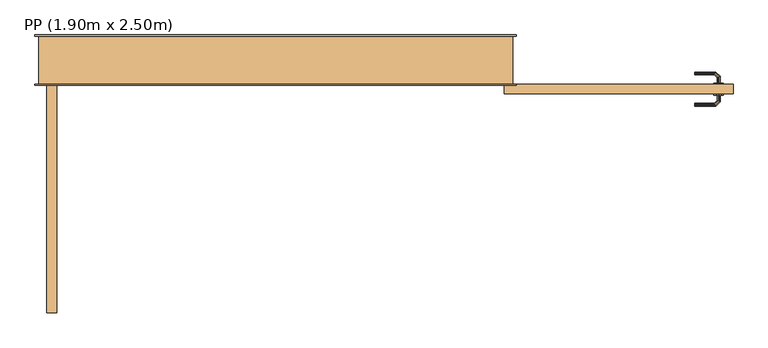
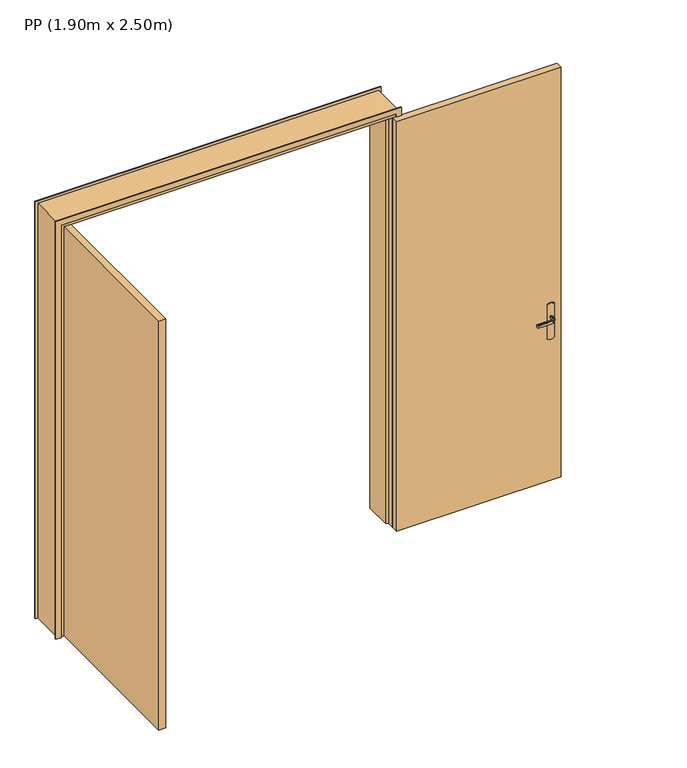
"""IFC4 building model written with IfcOpenShell, lengths in millimetres: door geometry, PP (1.90m x 2.50m)."""

from ifc_helpers import new_model, si_unit, frame, origin, origin_with_axes, place, context, project, spatial, polyline, outline, extrude, faceted_brep, source, transform, mapped, element, save


def pp_1_90m_x_2_50m_fd2a65c8(model_context):
    return source(origin(), model_context, "Body", "SolidModel", [
        extrude(outline(polyline([(2885.0, -40.0), (1935.0, -40.0), (1935.0, 0.0), (2885.0, 0.0), (2885.0, -40.0)])), origin_with_axes(), (0.0, 0.0, 1.0), 2500.0),
        extrude(outline(polyline([(1083.9960169, 2814.6472382), (1080.0, 2805.0), (870.0, 2805.0), (866.0039831, 2814.6472382), (864.6410162, 2825.0), (866.0039831, 2835.3527618), (870.0, 2845.0), (1080.0, 2845.0), (1083.9960169, 2835.3527618), (1085.3589838, 2825.0), (1083.9960169, 2814.6472382)])), frame((0.0, 0.0, 0.0), z_axis=(0.0, 1.0, 0.0), x_axis=(0.0, 0.0, 1.0)), (0.0, 0.0, 1.0), 5.0),
        extrude(outline(polyline([(1083.9960169, 2814.6472382), (1080.0, 2805.0), (870.0, 2805.0), (866.0039831, 2814.6472382), (864.6410162, 2825.0), (866.0039831, 2835.3527618), (870.0, 2845.0), (1080.0, 2845.0), (1083.9960169, 2835.3527618), (1085.3589838, 2825.0), (1083.9960169, 2814.6472382)])), frame((0.0, -45.0, 0.0), z_axis=(0.0, 1.0, 0.0), x_axis=(0.0, 0.0, 1.0)), (0.0, 0.0, 1.0), 5.0),
        extrude(outline(polyline([(0.0, -15.0), (0.0, 15.0), (2520.0, 15.0), (2520.0, 1955.0), (0.0, 1955.0), (0.0, 1985.0), (2550.0, 1985.0), (2550.0, -15.0), (0.0, -15.0)])), frame((0.0, -5.0, 0.0), z_axis=(0.0, 1.0, 0.0), x_axis=(0.0, 0.0, 1.0)), (0.0, 0.0, 1.0), 5.0),
        faceted_brep([(2827.0252987, -45.0, 1007.7804408), (2831.0, -45.0, 1007.0), (2831.0, -45.0, 993.0), (2827.0252987, -45.0, 992.2195592), (2822.9747013, -45.0, 992.2195592), (2819.0, -45.0, 993.0), (2819.0, -45.0, 1007.0), (2822.9747013, -45.0, 1007.7804408), (2819.0, -67.4852045, 993.0), (2819.0, -67.4852045, 1007.0), (2822.9747013, -69.1315797, 1007.7804408), (2809.1610938, -82.9451872, 1007.7804408), (2810.8389062, -86.9957845, 1007.7804408), (2827.0252987, -70.8093921, 1007.7804408), (2831.0, -72.4557673, 1007.0), (2831.0, -72.4557673, 993.0), (2827.0252987, -70.8093921, 992.2195592), (2810.8389062, -86.9957845, 992.2195592), (2809.1610938, -82.9451872, 992.2195592), (2822.9747013, -69.1315797, 992.2195592), (2807.5147186, -78.9704859, 993.0), (2807.5147186, -78.9704859, 1007.0), (2812.4852814, -90.9704859, 1007.0), (2812.4852814, -90.9704859, 993.0), (2724.9542163, -78.9704859, 993.0), (2724.9542163, -82.9451872, 992.2195592), (2724.9542163, -86.9957845, 992.2195592), (2724.9542163, -90.9704859, 993.0), (2724.9542163, -90.9704859, 1007.0), (2724.9542163, -86.9957845, 1007.7804408), (2724.9542163, -82.9451872, 1007.7804408), (2724.9542163, -78.9704859, 1007.0), (2766.2344794, -78.9704859, 993.0), (2766.2344675, -78.9704859, 1007.0), (2767.0576551, -84.9704859, 1007.8786868), (2772.5547942, -90.9704859, 1007.0), (2772.5547957, -90.9704859, 993.0), (2767.0576549, -84.9704858, 992.1213132)], [[[0, 1, 2, 3, 4, 5, 6, 7]], [[6, 5, 8, 9]], [[9, 10, 7, 6]], [[10, 11, 12, 13, 0, 7]], [[13, 14, 1, 0]], [[2, 1, 14, 15]], [[15, 16, 3, 2]], [[16, 17, 18, 19, 4, 3]], [[19, 8, 5, 4]], [[9, 8, 20, 21]], [[21, 11, 10, 9]], [[12, 22, 14, 13]], [[15, 14, 22, 23]], [[23, 17, 16, 15]], [[18, 20, 8, 19]], [[24, 25, 26, 27, 28, 29, 30, 31]], [[21, 20, 32, 24, 31, 33]], [[33, 30, 34]], [[35, 34, 29]], [[21, 33, 11]], [[33, 31, 30]], [[28, 35, 29]], [[22, 12, 35]], [[35, 12, 34]], [[12, 11, 34]], [[11, 33, 34]], [[29, 34, 30]], [[22, 35, 28, 27, 36, 23]], [[36, 26, 37]], [[27, 26, 36]], [[17, 23, 36]], [[37, 32, 18]], [[20, 18, 32]], [[32, 25, 24]], [[26, 25, 37]], [[25, 32, 37]], [[17, 36, 37]], [[17, 37, 18]]]),
        extrude(outline(polyline([(75.0, -950.0), (35.0, -950.0), (35.0, 0.0), (75.0, 0.0), (75.0, -950.0)])), origin_with_axes(), (0.0, 0.0, 1.0), 2500.0),
        faceted_brep([(2827.0252987, 5.0, 1007.7804408), (2822.9747013, 5.0, 1007.7804408), (2819.0, 5.0, 1007.0), (2819.0, 5.0, 993.0), (2822.9747013, 5.0, 992.2195592), (2827.0252987, 5.0, 992.2195592), (2831.0, 5.0, 993.0), (2831.0, 5.0, 1007.0), (2831.0, 32.6509507, 1007.0), (2827.0252987, 31.0045755, 1007.7804408), (2810.9764148, 47.0534593, 1007.7804408), (2809.2986025, 43.002862, 1007.7804408), (2822.9747013, 29.3267632, 1007.7804408), (2819.0, 27.680388, 1007.0), (2819.0, 27.680388, 993.0), (2822.9747013, 29.3267632, 992.2195592), (2809.2986025, 43.002862, 992.2195592), (2810.9764148, 47.0534593, 992.2195592), (2827.0252987, 31.0045755, 992.2195592), (2831.0, 32.6509507, 993.0), (2812.62279, 51.0281607, 1007.0), (2807.6522273, 39.0281607, 1007.0), (2807.6522273, 39.0281607, 993.0), (2812.62279, 51.0281607, 993.0), (2724.9813594, 51.0281607, 993.0), (2724.9813594, 47.0534593, 992.2195592), (2724.9813594, 43.002862, 992.2195592), (2724.9813594, 39.0281607, 993.0), (2724.9813594, 39.0281607, 1007.0), (2724.9813594, 43.002862, 1007.7804408), (2724.9813594, 47.0534593, 1007.7804408), (2724.9813594, 51.0281607, 1007.0), (2772.6923028, 51.0281607, 1007.0), (2767.1399809, 45.0281607, 1007.8786868), (2766.3167933, 39.0281607, 1007.0), (2766.3167933, 39.0281607, 993.0), (2767.1399811, 45.0281608, 992.1213132), (2772.6922998, 51.0281607, 993.0)], [[[0, 1, 2, 3, 4, 5, 6, 7]], [[8, 9, 0, 7]], [[9, 10, 11, 12, 1, 0]], [[12, 13, 2, 1]], [[3, 2, 13, 14]], [[14, 15, 4, 3]], [[15, 16, 17, 18, 5, 4]], [[18, 19, 6, 5]], [[7, 6, 19, 8]], [[20, 10, 9, 8]], [[11, 21, 13, 12]], [[14, 13, 21, 22]], [[22, 16, 15, 14]], [[17, 23, 19, 18]], [[8, 19, 23, 20]], [[24, 25, 26, 27, 28, 29, 30, 31]], [[32, 30, 33]], [[31, 30, 32]], [[10, 20, 32]], [[33, 34, 11]], [[21, 11, 34]], [[34, 29, 28]], [[30, 29, 33]], [[29, 34, 33]], [[10, 32, 33]], [[10, 33, 11]], [[22, 21, 34, 28, 27, 35]], [[35, 26, 36]], [[37, 36, 25]], [[22, 35, 16]], [[35, 27, 26]], [[24, 37, 25]], [[23, 17, 37]], [[37, 17, 36]], [[17, 16, 36]], [[16, 35, 36]], [[25, 36, 26]], [[20, 23, 37, 24, 31, 32]]]),
        extrude(outline(polyline([(0.0, -15.0), (0.0, 15.0), (2520.0, 15.0), (2520.0, 1955.0), (0.0, 1955.0), (0.0, 1985.0), (2550.0, 1985.0), (2550.0, -15.0), (0.0, -15.0)])), frame((0.0, 200.0, 0.0), z_axis=(0.0, 1.0, 0.0), x_axis=(0.0, 0.0, 1.0)), (0.0, 0.0, 1.0), 5.0),
        faceted_brep([(0.0, 0.0, 0.0), (0.0, 200.0, 0.0), (50.0, 200.0, 0.0), (50.0, 40.0, 0.0), (35.0, 40.0, 0.0), (35.0, 0.0, 0.0), (0.0, 0.0, 2535.0), (0.0, 200.0, 2535.0), (1970.0, 200.0, 2535.0), (1970.0, 200.0, 0.0), (1920.0, 200.0, 0.0), (1920.0, 200.0, 2485.0), (50.0, 200.0, 2485.0), (50.0, 40.0, 2485.0), (1920.0, 40.0, 2485.0), (1920.0, 40.0, 0.0), (1935.0, 40.0, 0.0), (1935.0, 40.0, 2500.0), (35.0, 40.0, 2500.0), (35.0, 0.0, 2500.0), (1935.0, 0.0, 2500.0), (1935.0, 0.0, 0.0), (1970.0, 0.0, 0.0), (1970.0, 0.0, 2535.0)], [[[0, 1, 2, 3, 4, 5]], [[1, 0, 6, 7]], [[2, 1, 7, 8, 9, 10, 11, 12]], [[3, 2, 12, 13]], [[4, 3, 13, 14, 15, 16, 17, 18]], [[5, 4, 18, 19]], [[0, 5, 19, 20, 21, 22, 23, 6]], [[8, 23, 22, 9]], [[22, 21, 16, 15, 10, 9]], [[14, 11, 10, 15]], [[20, 17, 16, 21]], [[7, 6, 23, 8]], [[13, 12, 11, 14]], [[19, 18, 17, 20]]]),
    ])


if __name__ == "__main__":
    model = new_model("IFC4")
    model_context = context("Model", 3, world=origin())
    ifc_project = project(units=[si_unit("LENGTHUNIT", "METRE", prefix="MILLI")], contexts=[model_context])
    site = spatial("IfcSite", under=ifc_project)
    building = spatial("IfcBuilding", under=site)
    placement = place(None, origin())
    pp_1_90m_x_2_50m_shape = pp_1_90m_x_2_50m_fd2a65c8(model_context)
    element("IfcDoor", 1, ObjectType="PP (1.90m x 2.50m)", at=placement, inside=building, context=model_context, shape_type="MappedRepresentation", body=[
        mapped(pp_1_90m_x_2_50m_shape, transform((0.0, 0.0, 0.0), x_axis=(1.0, 0.0, 0.0), y_axis=(0.0, 1.0, 0.0), z_axis=(0.0, 0.0, 1.0))),
    ])
    save(model, "model.ifc")
